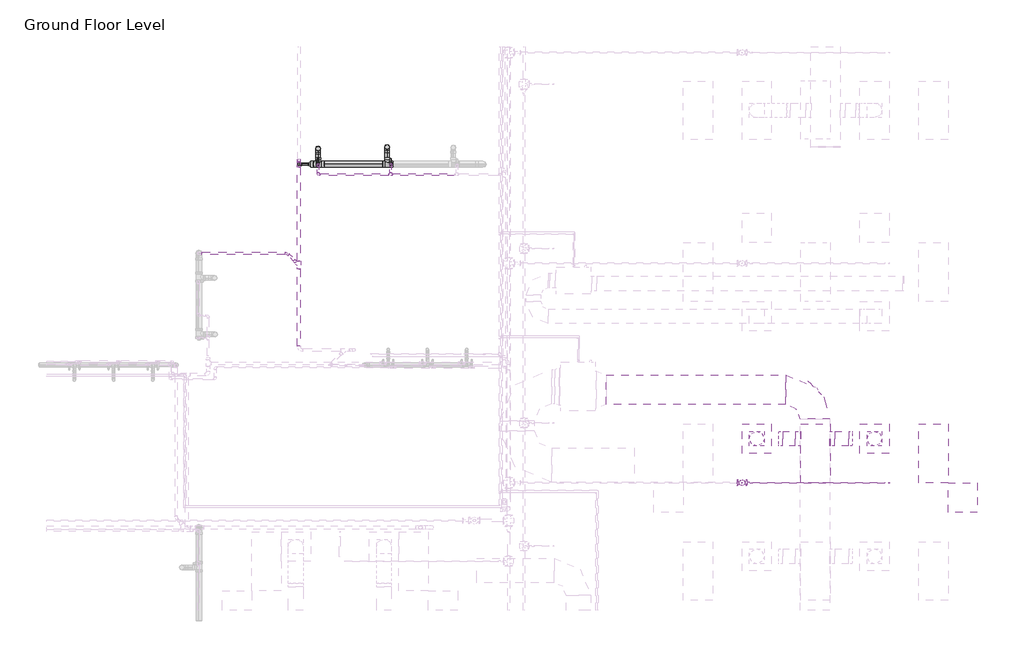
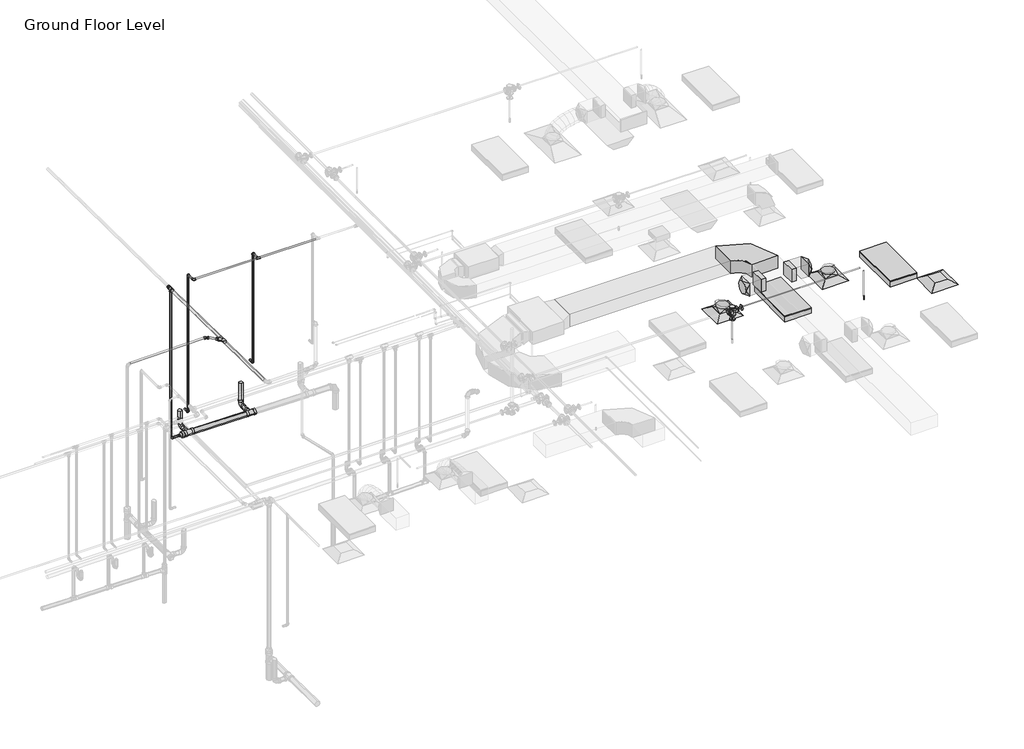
# One storey, part 19 of 68: 24 pipe segments, 20 pipe fittings, 7 duct fittings, 5 duct segments, 3 air terminals, 2 light fixtures, 1 fire suppression terminal.
"""IFC4 building model written with IfcOpenShell, lengths in millimetres."""

from ifc_helpers import new_model, si_unit, point, frame, frame_2d, origin, place, context, project, spatial, polyline, circle_curve, ellipse_curve, trimmed, segment, composite_curve, outline, extrude, transform, mapped, element, save
from ifc_brep_helpers import plane_surface, cylinder_surface, advanced_brep
from components import m_return_diffuser_600_x_600_face_300_x_300_connection_ff221211, m_rectangular_elbow_radius_1_w_c6ed0251, m_rectangular_takeoff_standard_cb0ccb98, m_rectangular_takeoff_standard_2be5eba1, m_rectangular_to_round_transition_angle_45_degree_641efff0, m_sprinkler_dry_pendent_hosted_15_mm_dry_pendent_9bda8e11, m_troffer_light_parabolic_rectangular1_0600x1200mm_4_lamp_86473d4a, m_bend_pvc_sch_40_dwv_standard_a4b99d37, m_bend_pvc_sch_40_dwv_standard_877aed9a, m_bend_pvc_sch_40_dwv_standard_980e5ff7, m_reducer_flanged_cs_class_150_standard_ccf252ad, m_reducer_pvc_sch_40_dwv_standard_19331f3d, m_reducer_pvc_sch_40_dwv_standard_230e9924, m_reducer_pvc_sch_40_dwv_standard_312d928c, m_tee_pvc_sch_40_standard_151c2b90, m_tee_reducing_sanitary_pvc_sch_40_dwv_standard_b49161a9, m_tee_reducing_sanitary_pvc_sch_40_dwv_standard_ca98856a, m_tee_round_base_flanged_cs_class_150_standard_7e5987a1, standard_517a5a8d, standard_72b35c3b, standard_c393d86d

model = new_model("IFC4")

# Units and contexts
model_context = context("Model", 3, world=origin())
ifc_project = project(units=[si_unit("LENGTHUNIT", "METRE", prefix="MILLI")], contexts=[model_context])

# Site, building, storey
site = spatial("IfcSite", under=ifc_project)
building = spatial("IfcBuilding", under=site)
storey = spatial("IfcBuildingStorey", under=building, Name="Ground Floor Level", Elevation=900.0)

# Air terminals
placement = place(None, origin())
m_return_diffuser_600_x_600_face_300_x_300_connection_shape = m_return_diffuser_600_x_600_face_300_x_300_connection_ff221211(model_context)
element("IfcAirTerminal", 1, ObjectType="M_Return Diffuser : 600 x 600 Face 300 x 300 Connection", at=placement, inside=storey, context=model_context, shape_type="MappedRepresentation", body=[
    mapped(m_return_diffuser_600_x_600_face_300_x_300_connection_shape, transform((14943.0482736, -35564.7846466, 3650.0), x_axis=(1.0, 0.0, 0.0), y_axis=(0.0, 1.0, 0.0), z_axis=(0.0, 0.0, 1.0))),
])
element("IfcAirTerminal", 2, ObjectType="M_Supply Diffuser : 600 x 600 Face 300 x 300 Connection", at=placement, inside=storey, context=model_context, shape_type="MappedRepresentation", body=[
    mapped(m_return_diffuser_600_x_600_face_300_x_300_connection_shape, transform((10742.7672395, -34364.7846466, 3650.0), x_axis=(1.0, 0.0, 0.0), y_axis=(0.0, 1.0, 0.0), z_axis=(0.0, 0.0, 1.0))),
])
element("IfcAirTerminal", 3, ObjectType="M_Supply Diffuser : 600 x 600 Face 300 x 300 Connection", at=placement, inside=storey, context=model_context, shape_type="MappedRepresentation", body=[
    mapped(m_return_diffuser_600_x_600_face_300_x_300_connection_shape, transform((13142.7672395, -34364.7846466, 3650.0), x_axis=(1.0, 0.0, 0.0), y_axis=(0.0, 1.0, 0.0), z_axis=(0.0, 0.0, 1.0))),
])

# Duct fittings
m_rectangular_elbow_radius_1_w_shape = m_rectangular_elbow_radius_1_w_c6ed0251(model_context)
element("IfcDuctFitting", 4, ObjectType="M_Rectangular Elbow - Radius : 1 W", at=placement, inside=storey, context=model_context, shape_type="MappedRepresentation", body=[
    mapped(m_rectangular_elbow_radius_1_w_shape, transform((11933.8644074, -33364.7726336, 4099.9875), x_axis=(0.0, 1.0, 0.0), y_axis=(-0.9999999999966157, 0.0, 2.601673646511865e-06), z_axis=(2.601673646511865e-06, 0.0, 0.9999999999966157))),
])
m_rectangular_takeoff_standard_shape = m_rectangular_takeoff_standard_cb0ccb98(model_context)
element("IfcDuctFitting", 5, ObjectType="M_Rectangular Takeoff : Standard", at=placement, inside=storey, context=model_context, shape_type="MappedRepresentation", body=[
    mapped(m_rectangular_takeoff_standard_shape, transform((12233.8644074, -34364.7846466, 4099.9875), x_axis=(1.0, 0.0, 0.0), y_axis=(0.0, -1.0, 0.0), z_axis=(0.0, 0.0, -1.0))),
])
m_rectangular_takeoff_standard_2_shape = m_rectangular_takeoff_standard_2be5eba1(model_context)
element("IfcDuctFitting", 6, ObjectType="M_Rectangular Takeoff : Standard", at=placement, inside=storey, context=model_context, shape_type="MappedRepresentation", body=[
    mapped(m_rectangular_takeoff_standard_2_shape, transform((11633.8644074, -34364.7846466, 4099.9875), x_axis=(-1.0, 0.0, 0.0), y_axis=(0.0, 1.0, 0.0), z_axis=(0.0, 0.0, -1.0))),
])
m_rectangular_to_round_transition_angle_45_degree_shape = m_rectangular_to_round_transition_angle_45_degree_641efff0(model_context)
element("IfcDuctFitting", 7, ObjectType="M_Rectangular to Round Transition - Angle : 45 Degree", at=placement, inside=storey, context=model_context, shape_type="MappedRepresentation", body=[
    mapped(m_rectangular_to_round_transition_angle_45_degree_shape, transform((10742.7672395, -34364.7846466, 3751.6), x_axis=(0.0, 0.0, 1.0), y_axis=(-1.0, 0.0, 0.0), z_axis=(0.0, -1.0, 0.0))),
])
element("IfcDuctFitting", 8, ObjectType="M_Rectangular to Round Transition - Angle : 45 Degree", at=placement, inside=storey, context=model_context, shape_type="MappedRepresentation", body=[
    mapped(m_rectangular_to_round_transition_angle_45_degree_shape, transform((11270.1156708, -34364.7846466, 4099.9875), x_axis=(-1.0, 0.0, 0.0), y_axis=(0.0, -1.0, 0.0), z_axis=(0.0, 0.0, 1.0))),
])
element("IfcDuctFitting", 9, ObjectType="M_Rectangular to Round Transition - Angle : 45 Degree", at=placement, inside=storey, context=model_context, shape_type="MappedRepresentation", body=[
    mapped(m_rectangular_to_round_transition_angle_45_degree_shape, transform((13142.7672395, -34364.7846466, 3751.6), x_axis=(0.0, 0.0, 1.0), y_axis=(-1.0, 0.0, 0.0), z_axis=(0.0, -1.0, 0.0))),
])
element("IfcDuctFitting", 10, ObjectType="M_Rectangular to Round Transition - Angle : 45 Degree", at=placement, inside=storey, context=model_context, shape_type="MappedRepresentation", body=[
    mapped(m_rectangular_to_round_transition_angle_45_degree_shape, transform((12615.4188082, -34364.7846466, 4099.9875), x_axis=(1.0, 0.0, 0.0), y_axis=(0.0, 1.0, 0.0), z_axis=(0.0, 0.0, 1.0))),
])

# Duct segments
element("IfcDuctSegment", 11, ObjectType="Flex - Round", at=placement, inside=storey, context=model_context, shape_type="AdvancedBrep", body=[
    advanced_brep(
    [(10892.7672395, -34364.7846466, 3826.6), (10742.7672395, -34514.7846466, 3826.6), (10592.7672395, -34364.7846466, 3826.6), (10742.7672395, -34214.7846466, 3826.6), (10892.7672395, -34364.7846466, 3829.8098344), (10742.7672395, -34214.7846466, 3864.5152119), (10592.7672395, -34364.7846466, 3899.2205895), (10742.7672395, -34514.7846466, 3864.5152119)],
    [
        (0, 1, circle_curve(frame((10742.7672395, -34364.7846466, 3826.6), z_axis=(0.0, 0.0, -1.0), x_axis=(1.0, 0.0, 0.0)), 150.0)),
        (1, 2, circle_curve(frame((10742.7672395, -34364.7846466, 3826.6), z_axis=(0.0, 0.0, -1.0), x_axis=(1.0, 0.0, 0.0)), 150.0)),
        (2, 3, circle_curve(frame((10742.7672395, -34364.7846466, 3826.6), z_axis=(0.0, 0.0, -1.0), x_axis=(1.0, 0.0, 0.0)), 150.0)),
        (3, 0, circle_curve(frame((10742.7672395, -34364.7846466, 3826.6), z_axis=(0.0, 0.0, -1.0), x_axis=(1.0, 0.0, 0.0)), 150.0)),
        (4, 5, ellipse_curve(frame((10742.7672395, -34364.7846466, 3864.5152119), z_axis=(0.22541442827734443, 0.0, 0.9742629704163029), x_axis=(0.9742629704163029, 0.0, -0.22541442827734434)), 153.9625384, 150.0)),
        (5, 6, ellipse_curve(frame((10742.7672395, -34364.7846466, 3864.5152119), z_axis=(0.22541442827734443, 0.0, 0.9742629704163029), x_axis=(0.9742629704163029, 0.0, -0.22541442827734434)), 153.9625384, 150.0)),
        (6, 7, ellipse_curve(frame((10742.7672395, -34364.7846466, 3864.5152119), z_axis=(0.22541442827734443, 0.0, 0.9742629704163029), x_axis=(0.9742629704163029, 0.0, -0.22541442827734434)), 153.9625384, 150.0)),
        (7, 4, ellipse_curve(frame((10742.7672395, -34364.7846466, 3864.5152119), z_axis=(0.22541442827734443, 0.0, 0.9742629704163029), x_axis=(0.9742629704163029, 0.0, -0.22541442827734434)), 153.9625384, 150.0)),
        (0, 4),
        (7, 1),
        (6, 2),
        (5, 3),
    ],
    [
        plane_surface(frame((10742.7672395, -34514.7846466, 3826.6), z_axis=(0.0, 0.0, -1.0), x_axis=(1.0, 0.0, 0.0))),
        plane_surface(frame((10742.7672395, -34514.7846466, 3864.5152119), z_axis=(0.22541442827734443, 0.0, 0.9742629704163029), x_axis=(0.9742629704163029, 0.0, -0.22541442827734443))),
        cylinder_surface(frame((10742.7672395, -34364.7846466, 3826.6), z_axis=(0.0, 0.0, -1.0), x_axis=(1.0, 0.0, 0.0)), 150.0),
    ],
    [
        (0, [[1, 2, 3, 4]]),
        (1, [[5, 6, 7, 8]]),
        (2, [[-1, 9, -8, 10]]),
        (2, [[-2, -10, -7, 11]]),
        (2, [[-3, -11, -6, 12]]),
        (2, [[-4, -12, -5, -9]]),
    ],
),
])
element("IfcDuctSegment", 12, ObjectType="Flex - Round", at=placement, inside=storey, context=model_context, shape_type="AdvancedBrep", body=[
    advanced_brep(
    [(13292.7672395, -34364.7846466, 3826.6), (13142.7672395, -34514.7846466, 3826.6), (12992.7672395, -34364.7846466, 3826.6), (13142.7672395, -34214.7846466, 3826.6), (13292.7672395, -34364.7846466, 3899.2205895), (13142.7672395, -34214.7846466, 3864.5152119), (12992.7672395, -34364.7846466, 3829.8098344), (13142.7672395, -34514.7846466, 3864.5152119)],
    [
        (0, 1, circle_curve(frame((13142.7672395, -34364.7846466, 3826.6), z_axis=(0.0, 0.0, -1.0), x_axis=(1.0, 0.0, 0.0)), 150.0)),
        (1, 2, circle_curve(frame((13142.7672395, -34364.7846466, 3826.6), z_axis=(0.0, 0.0, -1.0), x_axis=(1.0, 0.0, 0.0)), 150.0)),
        (2, 3, circle_curve(frame((13142.7672395, -34364.7846466, 3826.6), z_axis=(0.0, 0.0, -1.0), x_axis=(1.0, 0.0, 0.0)), 150.0)),
        (3, 0, circle_curve(frame((13142.7672395, -34364.7846466, 3826.6), z_axis=(0.0, 0.0, -1.0), x_axis=(1.0, 0.0, 0.0)), 150.0)),
        (4, 5, ellipse_curve(frame((13142.7672395, -34364.7846466, 3864.5152119), z_axis=(-0.22541442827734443, 0.0, 0.9742629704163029), x_axis=(-0.9742629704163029, 0.0, -0.22541442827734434)), 153.9625384, 150.0)),
        (5, 6, ellipse_curve(frame((13142.7672395, -34364.7846466, 3864.5152119), z_axis=(-0.22541442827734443, 0.0, 0.9742629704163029), x_axis=(-0.9742629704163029, 0.0, -0.22541442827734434)), 153.9625384, 150.0)),
        (6, 7, ellipse_curve(frame((13142.7672395, -34364.7846466, 3864.5152119), z_axis=(-0.22541442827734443, 0.0, 0.9742629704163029), x_axis=(-0.9742629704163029, 0.0, -0.22541442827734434)), 153.9625384, 150.0)),
        (7, 4, ellipse_curve(frame((13142.7672395, -34364.7846466, 3864.5152119), z_axis=(-0.22541442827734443, 0.0, 0.9742629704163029), x_axis=(-0.9742629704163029, 0.0, -0.22541442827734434)), 153.9625384, 150.0)),
        (0, 4),
        (7, 1),
        (6, 2),
        (5, 3),
    ],
    [
        plane_surface(frame((13142.7672395, -34514.7846466, 3826.6), z_axis=(0.0, 0.0, -1.0), x_axis=(1.0, 0.0, 0.0))),
        plane_surface(frame((13142.7672395, -34214.7846466, 3864.5152119), z_axis=(-0.22541442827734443, 0.0, 0.9742629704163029), x_axis=(-0.9742629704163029, 0.0, -0.22541442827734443))),
        cylinder_surface(frame((13142.7672395, -34364.7846466, 3826.6), z_axis=(0.0, 0.0, -1.0), x_axis=(1.0, 0.0, 0.0)), 150.0),
    ],
    [
        (0, [[1, 2, 3, 4]]),
        (1, [[5, 6, 7, 8]]),
        (2, [[-1, 9, -8, 10]]),
        (2, [[-2, -10, -7, 11]]),
        (2, [[-3, -11, -6, 12]]),
        (2, [[-4, -12, -5, -9]]),
    ],
),
])
element("IfcDuctSegment", 13, ObjectType="Radius Elbows / Taps", at=placement, inside=storey, context=model_context, shape_type="SweptSolid", body=[
    extrude(outline(polyline([(0.0, -600.0), (0.0, 0.0), (3664.5995898, 0.0), (3664.5995898, -600.0), (0.0, -600.0)])), frame((7669.2643699, -33064.7726336, 3950.0), z_axis=(2.9850453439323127e-06, 0.0, 0.9999999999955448), x_axis=(0.9999999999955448, 0.0, -2.9850453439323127e-06)), (0.0, 0.0, 1.0), 300.0),
])
element("IfcDuctSegment", 14, ObjectType="Radius Elbows / Taps", at=placement, inside=storey, context=model_context, shape_type="SweptSolid", body=[
    extrude(outline(polyline([(11532.2644074, -34214.7846466), (11532.2644074, -34514.7846466), (11270.1156708, -34514.7846466), (11270.1156708, -34214.7846466), (11532.2644074, -34214.7846466)])), frame((0.0, 0.0, 3949.9875), z_axis=(0.0, 0.0, 1.0), x_axis=(1.0, 0.0, 0.0)), (0.0, 0.0, 1.0), 300.0),
])
element("IfcDuctSegment", 15, ObjectType="Radius Elbows / Taps", at=placement, inside=storey, context=model_context, shape_type="SweptSolid", body=[
    extrude(outline(polyline([(12335.4644074, -34514.7846466), (12335.4644074, -34214.7846466), (12615.4188082, -34214.7846466), (12615.4188082, -34514.7846466), (12335.4644074, -34514.7846466)])), frame((0.0, 0.0, 3949.9875), z_axis=(0.0, 0.0, 1.0), x_axis=(1.0, 0.0, 0.0)), (0.0, 0.0, 1.0), 300.0),
])

# Fire suppression terminal
m_sprinkler_dry_pendent_hosted_15_mm_dry_pendent_shape = m_sprinkler_dry_pendent_hosted_15_mm_dry_pendent_9bda8e11(model_context)
element("IfcFireSuppressionTerminal", 16, ObjectType="M_Sprinkler - Dry - Pendent - Hosted : 15 mm Dry Pendent", at=placement, inside=storey, context=model_context, shape_type="MappedRepresentation", body=[
    mapped(m_sprinkler_dry_pendent_hosted_15_mm_dry_pendent_shape, transform((13443.0482736, -35264.7846466, 3650.0), x_axis=(1.0, 0.0, 0.0), y_axis=(0.0, -1.0, 0.0), z_axis=(0.0, 0.0, -1.0))),
])

# Light fixtures
m_troffer_light_parabolic_rectangular1_0600x1200mm_4_lamp_shape = m_troffer_light_parabolic_rectangular1_0600x1200mm_4_lamp_86473d4a(model_context)
element("IfcLightFixture", 17, ObjectType="M_Troffer Light - Parabolic Rectangular1 : 0600x1200mm(4 Lamp) - 277V 2", at=placement, inside=storey, context=model_context, shape_type="MappedRepresentation", body=[
    mapped(m_troffer_light_parabolic_rectangular1_0600x1200mm_4_lamp_shape, transform((14283.5823415, -34646.0811451, 3650.0), x_axis=(0.0, 1.0, 0.0), y_axis=(-1.0, 0.0, 0.0), z_axis=(0.0, 0.0, 1.0))),
])
element("IfcLightFixture", 18, ObjectType="M_Troffer Light - Parabolic Rectangular1 : 0600x1200mm(4 Lamp) - 277V 2", at=placement, inside=storey, context=model_context, shape_type="MappedRepresentation", body=[
    mapped(m_troffer_light_parabolic_rectangular1_0600x1200mm_4_lamp_shape, transform((11883.5823415, -34646.0811451, 3650.0), x_axis=(0.0, 1.0, 0.0), y_axis=(-1.0, 0.0, 0.0), z_axis=(0.0, 0.0, 1.0))),
])

# Pipe fittings
m_bend_pvc_sch_40_dwv_standard_shape = m_bend_pvc_sch_40_dwv_standard_a4b99d37(model_context)
element("IfcPipeFitting", 19, ObjectType="M_Bend - PVC - Sch 40 - DWV : Standard", at=placement, inside=storey, context=model_context, shape_type="MappedRepresentation", body=[
    mapped(m_bend_pvc_sch_40_dwv_standard_shape, transform((3203.6056556, -28411.2419494, 467.9903626), x_axis=(0.0, 0.0, -1.0), y_axis=(0.0, -1.0, 0.0), z_axis=(-1.0, 0.0, 0.0))),
])
element("IfcPipeFitting", 20, ObjectType="M_Bend - PVC - Sch 40 - DWV : Standard", at=placement, inside=storey, context=model_context, shape_type="MappedRepresentation", body=[
    mapped(m_bend_pvc_sch_40_dwv_standard_shape, transform((1796.7972875, -28443.3871738, 482.0584463), x_axis=(0.0, 0.0, -1.0), y_axis=(0.0, -1.0, 0.0), z_axis=(-1.0, 0.0, 0.0))),
])
m_bend_pvc_sch_40_dwv_standard_2_shape = m_bend_pvc_sch_40_dwv_standard_877aed9a(model_context)
element("IfcPipeFitting", 21, ObjectType="M_Bend - PVC - Sch 40 - DWV : Standard", at=placement, inside=storey, context=model_context, shape_type="MappedRepresentation", body=[
    mapped(m_bend_pvc_sch_40_dwv_standard_2_shape, transform((1404.8669708, -28761.5689421, 485.9777495), x_axis=(-0.9999500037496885, 0.0, 0.009999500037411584), y_axis=(0.009999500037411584, 0.0, 0.9999500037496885), z_axis=(0.0, 1.0, 0.0))),
])
m_bend_pvc_sch_40_dwv_standard_3_shape = m_bend_pvc_sch_40_dwv_standard_980e5ff7(model_context)
element("IfcPipeFitting", 22, ObjectType="M_Bend - PVC - Sch 40 - DWV : Standard", at=placement, inside=storey, context=model_context, shape_type="MappedRepresentation", body=[
    mapped(m_bend_pvc_sch_40_dwv_standard_3_shape, transform((1167.6346326, -30581.7541446, 4102.0377498), x_axis=(-0.7070204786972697, 0.7069851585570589, -0.017147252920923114), y_axis=(-0.7071225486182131, -0.7070845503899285, 0.0030232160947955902), z_axis=(-0.009987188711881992, 0.014262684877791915, 0.9998484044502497))),
])
m_reducer_flanged_cs_class_150_standard_shape = m_reducer_flanged_cs_class_150_standard_ccf252ad(model_context)
element("IfcPipeFitting", 23, ObjectType="M_Reducer - Flanged - CS - Class 150 : Standard", at=placement, inside=storey, context=model_context, shape_type="MappedRepresentation", body=[
    mapped(m_reducer_flanged_cs_class_150_standard_shape, transform((10543.7568674, -35264.7846466, 4347.5), x_axis=(1.0, 0.0, 0.0), y_axis=(0.0, 0.0, 1.0), z_axis=(0.0, -1.0, 0.0))),
])
element("IfcPipeFitting", 24, ObjectType="M_Reducer - Flanged - CS - Class 150 : Standard", at=placement, inside=storey, context=model_context, shape_type="MappedRepresentation", body=[
    mapped(m_reducer_flanged_cs_class_150_standard_shape, transform((10443.0482736, -35264.7846466, 4246.7914063), x_axis=(0.0, 0.0, -1.0), y_axis=(-1.0, 0.0, 0.0), z_axis=(0.0, 1.0, 0.0))),
])
m_reducer_pvc_sch_40_dwv_standard_shape = m_reducer_pvc_sch_40_dwv_standard_19331f3d(model_context)
element("IfcPipeFitting", 25, ObjectType="M_Reducer - PVC - Sch 40 - DWV : Standard", at=placement, inside=storey, context=model_context, shape_type="MappedRepresentation", body=[
    mapped(m_reducer_pvc_sch_40_dwv_standard_shape, transform((1692.863236, -28761.5689421, 483.0977868), x_axis=(-0.9999500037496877, 0.0, 0.00999950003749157), y_axis=(0.0, -1.0000000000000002, 0.0), z_axis=(0.00999950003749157, 0.0, 0.9999500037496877))),
])
m_reducer_pvc_sch_40_dwv_standard_2_shape = m_reducer_pvc_sch_40_dwv_standard_230e9924(model_context)
element("IfcPipeFitting", 26, ObjectType="M_Reducer - PVC - Sch 40 - DWV : Standard", at=placement, inside=storey, context=model_context, shape_type="MappedRepresentation", body=[
    mapped(m_reducer_pvc_sch_40_dwv_standard_2_shape, transform((1404.8829692, -28664.0719039, 4086.0016836), x_axis=(0.0, -0.9999500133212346, 0.00999854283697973), y_axis=(1.0, 0.0, 0.0), z_axis=(0.0, 0.00999854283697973, 0.9999500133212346))),
])
m_reducer_pvc_sch_40_dwv_standard_3_shape = m_reducer_pvc_sch_40_dwv_standard_312d928c(model_context)
element("IfcPipeFitting", 27, ObjectType="M_Reducer - PVC - Sch 40 - DWV : Standard", at=placement, inside=storey, context=model_context, shape_type="MappedRepresentation", body=[
    mapped(m_reducer_pvc_sch_40_dwv_standard_3_shape, transform((1345.2677086, -30759.3781518, 4106.4029379), x_axis=(-0.7070174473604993, 0.7069881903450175, -0.017147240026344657), y_axis=(-0.7070524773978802, -0.7071546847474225, -0.003007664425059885), z_axis=(-0.014252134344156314, 0.009997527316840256, 0.9998484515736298))),
])
m_tee_pvc_sch_40_standard_shape = m_tee_pvc_sch_40_standard_151c2b90(model_context)
element("IfcPipeFitting", 28, ObjectType="M_Tee - PVC - Sch 40 : Standard", at=placement, inside=storey, context=model_context, shape_type="MappedRepresentation", body=[
    mapped(m_tee_pvc_sch_40_standard_shape, transform((1404.8829692, -30818.9909454, 4107.8487823), x_axis=(0.0, -0.9999500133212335, 0.009998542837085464), y_axis=(0.9998984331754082, 0.0001425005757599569, 0.014251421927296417), z_axis=(-0.014252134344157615, 0.009997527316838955, 0.9998484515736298))),
])
m_tee_reducing_sanitary_pvc_sch_40_dwv_standard_shape = m_tee_reducing_sanitary_pvc_sch_40_dwv_standard_b49161a9(model_context)
element("IfcPipeFitting", 29, ObjectType="M_Tee Reducing Sanitary - PVC - Sch 40 - DWV : Standard", at=placement, inside=storey, context=model_context, shape_type="MappedRepresentation", body=[
    mapped(m_tee_reducing_sanitary_pvc_sch_40_dwv_standard_shape, transform((3203.6056556, -28761.5689421, 467.9903626), x_axis=(-0.9999500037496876, 0.0, 0.00999950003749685), y_axis=(0.0, -1.0, 0.0), z_axis=(0.00999950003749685, 0.0, 0.9999500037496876))),
])
element("IfcPipeFitting", 30, ObjectType="M_Tee Reducing Sanitary - PVC - Sch 40 - DWV : Standard", at=placement, inside=storey, context=model_context, shape_type="MappedRepresentation", body=[
    mapped(m_tee_reducing_sanitary_pvc_sch_40_dwv_standard_shape, transform((1796.7972875, -28761.5689421, 482.0584463), x_axis=(-0.9999500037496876, 0.0, 0.009999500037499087), y_axis=(0.0, -1.0000000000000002, 0.0), z_axis=(0.009999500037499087, 0.0, 0.9999500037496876))),
])
m_tee_reducing_sanitary_pvc_sch_40_dwv_standard_2_shape = m_tee_reducing_sanitary_pvc_sch_40_dwv_standard_ca98856a(model_context)
element("IfcPipeFitting", 31, ObjectType="M_Tee Reducing Sanitary - PVC - Sch 40 - DWV : Standard", at=placement, inside=storey, context=model_context, shape_type="MappedRepresentation", body=[
    mapped(m_tee_reducing_sanitary_pvc_sch_40_dwv_standard_2_shape, transform((1404.8829692, -28761.5849374, 4087.2766918), x_axis=(0.0, 0.9999500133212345, -0.009998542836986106), y_axis=(0.0, 0.009998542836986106, 0.9999500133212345), z_axis=(1.0, 0.0, 0.0))),
])
m_tee_round_base_flanged_cs_class_150_standard_shape = m_tee_round_base_flanged_cs_class_150_standard_7e5987a1(model_context)
element("IfcPipeFitting", 32, ObjectType="M_Tee Round Base - Flanged - CS - Class 150 : Standard", at=placement, inside=storey, context=model_context, shape_type="MappedRepresentation", body=[
    mapped(m_tee_round_base_flanged_cs_class_150_standard_shape, transform((10443.0482736, -35264.7846466, 4347.5), x_axis=(1.0, 0.0, 0.0), y_axis=(0.0, 0.0, 1.0), z_axis=(0.0, -1.0, 0.0))),
])
standard_shape = standard_517a5a8d(model_context)
element("IfcPipeFitting", 33, ObjectType="M_Elbow - CPVC - Sch 40 : Standard", at=placement, inside=storey, context=model_context, shape_type="MappedRepresentation", body=[
    mapped(standard_shape, transform((3277.0059257, -28764.7846466, 1655.0), x_axis=(0.0, -1.0, 0.0), y_axis=(0.0, 0.0, 1.0), z_axis=(-1.0, 0.0, 0.0))),
])
element("IfcPipeFitting", 34, ObjectType="M_Elbow - CPVC - Sch 40 : Standard", at=placement, inside=storey, context=model_context, shape_type="MappedRepresentation", body=[
    mapped(standard_shape, transform((3277.0059257, -28764.7846466, 4300.0), x_axis=(0.0, 0.0, 1.0), y_axis=(0.0, -1.0, 0.0), z_axis=(1.0, 0.0, 0.0))),
])
element("IfcPipeFitting", 35, ObjectType="M_Elbow - CPVC - Sch 40 : Standard", at=placement, inside=storey, context=model_context, shape_type="MappedRepresentation", body=[
    mapped(standard_shape, transform((1796.7587914, -28974.7846466, 4300.0), x_axis=(0.0, -1.0, 0.0), y_axis=(1.0, 0.0, 0.0), z_axis=(0.0, 0.0, 1.0))),
])
element("IfcPipeFitting", 36, ObjectType="M_Elbow - CPVC - Sch 40 : Standard", at=placement, inside=storey, context=model_context, shape_type="MappedRepresentation", body=[
    mapped(standard_shape, transform((1796.7587914, -28769.5558494, 4300.0), x_axis=(0.0, 0.0, 1.0), y_axis=(0.0, -1.0, 0.0), z_axis=(1.0, 0.0, 0.0))),
])
standard_2_shape = standard_72b35c3b(model_context)
element("IfcPipeFitting", 37, ObjectType="M_Tee - CPVC - Sch 40 : Standard", at=placement, inside=storey, context=model_context, shape_type="MappedRepresentation", body=[
    mapped(standard_2_shape, transform((3277.0059257, -28974.7846466, 4300.0), x_axis=(1.0, 0.0, 0.0), y_axis=(0.0, -1.0, 0.0), z_axis=(0.0, 0.0, -1.0))),
])
standard_3_shape = standard_c393d86d(model_context)
element("IfcPipeFitting", 38, ObjectType="M_Elbow - CPVC - Sch 40 : Standard", at=placement, inside=storey, context=model_context, shape_type="MappedRepresentation", body=[
    mapped(standard_3_shape, transform((1796.7587914, -28769.5558494, 983.5), x_axis=(0.0, -0.9999999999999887, 1.506625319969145e-07), y_axis=(0.0, 1.506625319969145e-07, 0.9999999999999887), z_axis=(-1.0, 0.0, 0.0))),
])

# Pipe segments
element("IfcPipeSegment", 39, ObjectType="CPVC", at=placement, inside=storey, context=model_context, shape_type="SweptSolid", body=[
    extrude(outline(composite_curve([segment(trimmed(circle_curve(frame_2d((-28974.7846466, 4300.0)), 16.7005), [point((-28958.0841466, 4300.0))], [point((-28974.7846466, 4283.2995))], False, "CARTESIAN"), True, "CONTINUOUS"), segment(trimmed(circle_curve(frame_2d((-28974.7846466, 4300.0)), 16.7005), [point((-28974.7846466, 4283.2995))], [point((-28991.4851466, 4300.0))], False, "CARTESIAN"), True, "CONTINUOUS"), segment(trimmed(circle_curve(frame_2d((-28974.7846466, 4300.0)), 16.7005), [point((-28991.4851466, 4300.0))], [point((-28974.7846466, 4316.7005))], False, "CARTESIAN"), True, "CONTINUOUS"), segment(trimmed(circle_curve(frame_2d((-28974.7846466, 4300.0)), 16.7005), [point((-28974.7846466, 4316.7005))], [point((-28958.0841466, 4300.0))], False, "CARTESIAN"), True, "CONTINUOUS")], self_intersect=False)), frame((1840.0213414, 0.0, 0.0), z_axis=(1.0, 0.0, 0.0), x_axis=(0.0, 1.0, 0.0)), (0.0, 0.0, 1.0), 1397.2843843),
])
element("IfcPipeSegment", 40, ObjectType="CPVC", at=placement, inside=storey, context=model_context, shape_type="SweptSolid", body=[
    extrude(outline(composite_curve([segment(trimmed(circle_curve(frame_2d((1655.0, 3277.0059257)), 16.7005), [point((1655.0, 3260.3054257))], [point((1638.2995, 3277.0059257))], False, "CARTESIAN"), True, "CONTINUOUS"), segment(trimmed(circle_curve(frame_2d((1655.0, 3277.0059257)), 16.7005), [point((1638.2995, 3277.0059257))], [point((1655.0, 3293.7064257))], False, "CARTESIAN"), True, "CONTINUOUS"), segment(trimmed(circle_curve(frame_2d((1655.0, 3277.0059257)), 16.7005), [point((1655.0, 3293.7064257))], [point((1671.7005, 3277.0059257))], False, "CARTESIAN"), True, "CONTINUOUS"), segment(trimmed(circle_curve(frame_2d((1655.0, 3277.0059257)), 16.7005), [point((1671.7005, 3277.0059257))], [point((1655.0, 3260.3054257))], False, "CARTESIAN"), True, "CONTINUOUS")], self_intersect=False)), frame((0.0, -28721.5220966, 0.0), z_axis=(0.0, 1.0, 0.0), x_axis=(0.0, 0.0, 1.0)), (0.0, 0.0, 1.0), 76.73745),
])
element("IfcPipeSegment", 41, ObjectType="CPVC", at=placement, inside=storey, context=model_context, shape_type="SweptSolid", body=[
    extrude(outline(composite_curve([segment(trimmed(circle_curve(frame_2d((4300.0, 3277.0059257)), 16.7005), [point((4300.0, 3293.7064257))], [point((4316.7005, 3277.0059257))], False, "CARTESIAN"), True, "CONTINUOUS"), segment(trimmed(circle_curve(frame_2d((4300.0, 3277.0059257)), 16.7005), [point((4316.7005, 3277.0059257))], [point((4300.0, 3260.3054257))], False, "CARTESIAN"), True, "CONTINUOUS"), segment(trimmed(circle_curve(frame_2d((4300.0, 3277.0059257)), 16.7005), [point((4300.0, 3260.3054257))], [point((4283.2995, 3277.0059257))], False, "CARTESIAN"), True, "CONTINUOUS"), segment(trimmed(circle_curve(frame_2d((4300.0, 3277.0059257)), 16.7005), [point((4283.2995, 3277.0059257))], [point((4300.0, 3293.7064257))], False, "CARTESIAN"), True, "CONTINUOUS")], self_intersect=False)), frame((0.0, -28935.0844466, 0.0), z_axis=(0.0, 1.0, 0.0), x_axis=(0.0, 0.0, 1.0)), (0.0, 0.0, 1.0), 127.03725),
])
element("IfcPipeSegment", 42, ObjectType="CPVC", at=placement, inside=storey, context=model_context, shape_type="SweptSolid", body=[
    extrude(outline(composite_curve([segment(trimmed(circle_curve(frame_2d((3277.0059257, -28764.7846466)), 16.7005), [point((3260.3054257, -28764.7846466))], [point((3277.0059257, -28748.0841466))], False, "CARTESIAN"), True, "CONTINUOUS"), segment(trimmed(circle_curve(frame_2d((3277.0059257, -28764.7846466)), 16.7005), [point((3277.0059257, -28748.0841466))], [point((3293.7064257, -28764.7846466))], False, "CARTESIAN"), True, "CONTINUOUS"), segment(trimmed(circle_curve(frame_2d((3277.0059257, -28764.7846466)), 16.7005), [point((3293.7064257, -28764.7846466))], [point((3277.0059257, -28781.4851466))], False, "CARTESIAN"), True, "CONTINUOUS"), segment(trimmed(circle_curve(frame_2d((3277.0059257, -28764.7846466)), 16.7005), [point((3277.0059257, -28781.4851466))], [point((3260.3054257, -28764.7846466))], False, "CARTESIAN"), True, "CONTINUOUS")], self_intersect=False)), frame((0.0, 0.0, 1698.26255), z_axis=(0.0, 0.0, 1.0), x_axis=(1.0, 0.0, 0.0)), (0.0, 0.0, 1.0), 2558.4749),
])
element("IfcPipeSegment", 43, ObjectType="CPVC", at=placement, inside=storey, context=model_context, shape_type="SweptSolid", body=[
    extrude(outline(composite_curve([segment(trimmed(circle_curve(frame_2d((-28974.7846466, 4300.0)), 16.7005), [point((-28958.0841466, 4300.0))], [point((-28974.7846466, 4283.2995))], False, "CARTESIAN"), True, "CONTINUOUS"), segment(trimmed(circle_curve(frame_2d((-28974.7846466, 4300.0)), 16.7005), [point((-28974.7846466, 4283.2995))], [point((-28991.4851466, 4300.0))], False, "CARTESIAN"), True, "CONTINUOUS"), segment(trimmed(circle_curve(frame_2d((-28974.7846466, 4300.0)), 16.7005), [point((-28991.4851466, 4300.0))], [point((-28974.7846466, 4316.7005))], False, "CARTESIAN"), True, "CONTINUOUS"), segment(trimmed(circle_curve(frame_2d((-28974.7846466, 4300.0)), 16.7005), [point((-28974.7846466, 4316.7005))], [point((-28958.0841466, 4300.0))], False, "CARTESIAN"), True, "CONTINUOUS")], self_intersect=False)), frame((3316.7061257, 0.0, 0.0), z_axis=(1.0, 0.0, 0.0), x_axis=(0.0, 1.0, 0.0)), (0.0, 0.0, 1.0), 1270.7089625),
])
element("IfcPipeSegment", 44, ObjectType="CPVC", at=placement, inside=storey, context=model_context, shape_type="SweptSolid", body=[
    extrude(outline(composite_curve([segment(trimmed(circle_curve(frame_2d((983.4999789, 1796.7587914)), 16.7005), [point((983.4999789, 1780.0582914))], [point((966.7994789, 1796.7587914))], False, "CARTESIAN"), True, "CONTINUOUS"), segment(trimmed(circle_curve(frame_2d((983.4999789, 1796.7587914)), 16.7005), [point((966.7994789, 1796.7587914))], [point((983.4999789, 1813.4592914))], False, "CARTESIAN"), True, "CONTINUOUS"), segment(trimmed(circle_curve(frame_2d((983.4999789, 1796.7587914)), 16.7005), [point((983.4999789, 1813.4592914))], [point((1000.2004789, 1796.7587914))], False, "CARTESIAN"), True, "CONTINUOUS"), segment(trimmed(circle_curve(frame_2d((983.4999789, 1796.7587914)), 16.7005), [point((1000.2004789, 1796.7587914))], [point((983.4999789, 1780.0582914))], False, "CARTESIAN"), True, "CONTINUOUS")], self_intersect=False)), frame((0.0, -28726.2933025, 0.0), z_axis=(0.0, 1.0, 0.0), x_axis=(0.0, 0.0, 1.0)), (0.0, 0.0, 1.0), 96.7374532),
])
element("IfcPipeSegment", 45, ObjectType="CPVC", at=placement, inside=storey, context=model_context, shape_type="SweptSolid", body=[
    extrude(outline(composite_curve([segment(trimmed(circle_curve(frame_2d((4300.0, 1796.7587914)), 16.7005), [point((4300.0, 1813.4592914))], [point((4316.7005, 1796.7587914))], False, "CARTESIAN"), True, "CONTINUOUS"), segment(trimmed(circle_curve(frame_2d((4300.0, 1796.7587914)), 16.7005), [point((4316.7005, 1796.7587914))], [point((4300.0, 1780.0582914))], False, "CARTESIAN"), True, "CONTINUOUS"), segment(trimmed(circle_curve(frame_2d((4300.0, 1796.7587914)), 16.7005), [point((4300.0, 1780.0582914))], [point((4283.2995, 1796.7587914))], False, "CARTESIAN"), True, "CONTINUOUS"), segment(trimmed(circle_curve(frame_2d((4300.0, 1796.7587914)), 16.7005), [point((4283.2995, 1796.7587914))], [point((4300.0, 1813.4592914))], False, "CARTESIAN"), True, "CONTINUOUS")], self_intersect=False)), frame((0.0, -28931.5220966, 0.0), z_axis=(0.0, 1.0, 0.0), x_axis=(0.0, 0.0, 1.0)), (0.0, 0.0, 1.0), 118.7036973),
])
element("IfcPipeSegment", 46, ObjectType="CPVC", at=placement, inside=storey, context=model_context, shape_type="SweptSolid", body=[
    extrude(outline(composite_curve([segment(trimmed(circle_curve(frame_2d((1796.7587914, -28769.5558494)), 16.7005), [point((1780.0582914, -28769.5558494))], [point((1796.7587914, -28752.8553494))], False, "CARTESIAN"), True, "CONTINUOUS"), segment(trimmed(circle_curve(frame_2d((1796.7587914, -28769.5558494)), 16.7005), [point((1796.7587914, -28752.8553494))], [point((1813.4592914, -28769.5558494))], False, "CARTESIAN"), True, "CONTINUOUS"), segment(trimmed(circle_curve(frame_2d((1796.7587914, -28769.5558494)), 16.7005), [point((1813.4592914, -28769.5558494))], [point((1796.7587914, -28786.2563494))], False, "CARTESIAN"), True, "CONTINUOUS"), segment(trimmed(circle_curve(frame_2d((1796.7587914, -28769.5558494)), 16.7005), [point((1796.7587914, -28786.2563494))], [point((1780.0582914, -28769.5558494))], False, "CARTESIAN"), True, "CONTINUOUS")], self_intersect=False)), frame((0.0, 0.0, 1026.7625468), z_axis=(0.0, 0.0, 1.0), x_axis=(1.0, 0.0, 0.0)), (0.0, 0.0, 1.0), 3229.9749032),
])
element("IfcPipeSegment", 47, ObjectType="PVC - DWV", at=placement, inside=storey, context=model_context, shape_type="SweptSolid", body=[
    extrude(outline(composite_curve([segment(trimmed(circle_curve(frame_2d((0.0, -44.45)), 44.45), [point((-44.45, -44.45))], [point((0.0, 0.0))], False, "CARTESIAN"), True, "CONTINUOUS"), segment(trimmed(circle_curve(frame_2d((0.0, -44.45)), 44.45), [point((0.0, 0.0))], [point((44.45, -44.45))], False, "CARTESIAN"), True, "CONTINUOUS"), segment(trimmed(circle_curve(frame_2d((0.0, -44.45)), 44.45), [point((44.45, -44.45))], [point((0.0, -88.9))], False, "CARTESIAN"), True, "CONTINUOUS"), segment(trimmed(circle_curve(frame_2d((0.0, -44.45)), 44.45), [point((0.0, -88.9))], [point((-44.45, -44.45))], False, "CARTESIAN"), True, "CONTINUOUS")], self_intersect=False)), frame((3203.6056556, -28455.6919494, 583.8905626), z_axis=(-1.1079649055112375e-05, 0.0, 0.9999999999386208), x_axis=(-0.9999999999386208, 0.0, -1.1079649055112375e-05)), (0.0, 0.0, 1.0), 406.1094374),
])
element("IfcPipeSegment", 48, ObjectType="PVC - DWV", at=placement, inside=storey, context=model_context, shape_type="SweptSolid", body=[
    extrude(outline(composite_curve([segment(trimmed(circle_curve(frame_2d((467.9903626, 3203.6056556)), 44.45), [point((467.9903626, 3159.1556556))], [point((423.5403626, 3203.6056556))], False, "CARTESIAN"), True, "CONTINUOUS"), segment(trimmed(circle_curve(frame_2d((467.9903626, 3203.6056556)), 44.45), [point((423.5403626, 3203.6056556))], [point((467.9903626, 3248.0556556))], False, "CARTESIAN"), True, "CONTINUOUS"), segment(trimmed(circle_curve(frame_2d((467.9903626, 3203.6056556)), 44.45), [point((467.9903626, 3248.0556556))], [point((512.4403626, 3203.6056556))], False, "CARTESIAN"), True, "CONTINUOUS"), segment(trimmed(circle_curve(frame_2d((467.9903626, 3203.6056556)), 44.45), [point((512.4403626, 3203.6056556))], [point((467.9903626, 3159.1556556))], False, "CARTESIAN"), True, "CONTINUOUS")], self_intersect=False)), frame((0.0, -28632.9687421, 0.0), z_axis=(0.0, 1.0, 0.0), x_axis=(0.0, 0.0, 1.0)), (0.0, 0.0, 1.0), 105.8265928),
])
element("IfcPipeSegment", 49, ObjectType="PVC - DWV", at=placement, inside=storey, context=model_context, shape_type="SweptSolid", body=[
    extrude(outline(composite_curve([segment(trimmed(circle_curve(frame_2d((0.0, -44.45)), 44.45), [point((-44.45, -44.45))], [point((0.0, 0.0))], False, "CARTESIAN"), True, "CONTINUOUS"), segment(trimmed(circle_curve(frame_2d((0.0, -44.45)), 44.45), [point((0.0, 0.0))], [point((44.45, -44.45))], False, "CARTESIAN"), True, "CONTINUOUS"), segment(trimmed(circle_curve(frame_2d((0.0, -44.45)), 44.45), [point((44.45, -44.45))], [point((0.0, -88.9))], False, "CARTESIAN"), True, "CONTINUOUS"), segment(trimmed(circle_curve(frame_2d((0.0, -44.45)), 44.45), [point((0.0, -88.9))], [point((-44.45, -44.45))], False, "CARTESIAN"), True, "CONTINUOUS")], self_intersect=False)), frame((1796.7972875, -28487.8371738, 597.9586463), z_axis=(-1.9335461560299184e-05, 0.0, 0.99999999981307), x_axis=(-0.99999999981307, 0.0, -1.9335461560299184e-05)), (0.0, 0.0, 1.0), 232.7097303),
])
element("IfcPipeSegment", 50, ObjectType="PVC - DWV", at=placement, inside=storey, context=model_context, shape_type="SweptSolid", body=[
    extrude(outline(composite_curve([segment(trimmed(circle_curve(frame_2d((482.0584463, 1796.7972875)), 44.45), [point((482.0584463, 1752.3472875))], [point((437.6084463, 1796.7972875))], False, "CARTESIAN"), True, "CONTINUOUS"), segment(trimmed(circle_curve(frame_2d((482.0584463, 1796.7972875)), 44.45), [point((437.6084463, 1796.7972875))], [point((482.0584463, 1841.2472875))], False, "CARTESIAN"), True, "CONTINUOUS"), segment(trimmed(circle_curve(frame_2d((482.0584463, 1796.7972875)), 44.45), [point((482.0584463, 1841.2472875))], [point((526.5084463, 1796.7972875))], False, "CARTESIAN"), True, "CONTINUOUS"), segment(trimmed(circle_curve(frame_2d((482.0584463, 1796.7972875)), 44.45), [point((526.5084463, 1796.7972875))], [point((482.0584463, 1752.3472875))], False, "CARTESIAN"), True, "CONTINUOUS")], self_intersect=False)), frame((0.0, -28632.9687421, 0.0), z_axis=(0.0, 1.0, 0.0), x_axis=(0.0, 0.0, 1.0)), (0.0, 0.0, 1.0), 73.6813683),
])
element("IfcPipeSegment", 51, ObjectType="PVC - DWV", at=placement, inside=storey, context=model_context, shape_type="SweptSolid", body=[
    extrude(outline(composite_curve([segment(trimmed(circle_curve(frame_2d((0.0, -57.15)), 57.15), [point((0.0, -114.3))], [point((-57.15, -57.15))], False, "CARTESIAN"), True, "CONTINUOUS"), segment(trimmed(circle_curve(frame_2d((0.0, -57.15)), 57.15), [point((-57.15, -57.15))], [point((0.0, 0.0))], False, "CARTESIAN"), True, "CONTINUOUS"), segment(trimmed(circle_curve(frame_2d((0.0, -57.15)), 57.15), [point((0.0, 0.0))], [point((57.15, -57.15))], False, "CARTESIAN"), True, "CONTINUOUS"), segment(trimmed(circle_curve(frame_2d((0.0, -57.15)), 57.15), [point((57.15, -57.15))], [point((0.0, -114.3))], False, "CARTESIAN"), True, "CONTINUOUS")], self_intersect=False)), frame((3114.7101003, -28704.4189421, 468.8793182), z_axis=(-0.9999500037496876, 0.0, 0.00999950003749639), x_axis=(0.00999950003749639, 0.0, 0.9999500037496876)), (0.0, 0.0, 1.0), 1197.3287067),
])
element("IfcPipeSegment", 52, ObjectType="PVC - DWV", at=placement, inside=storey, context=model_context, shape_type="SweptSolid", body=[
    extrude(outline(composite_curve([segment(trimmed(circle_curve(frame_2d((0.0, 30.1624999)), 30.1625), [point((-30.1625, 30.1624999))], [point((0.0, 60.3249999))], False, "CARTESIAN"), True, "CONTINUOUS"), segment(trimmed(circle_curve(frame_2d((0.0, 30.1624999)), 30.1625), [point((0.0, 60.3249999))], [point((30.1625, 30.1624999))], False, "CARTESIAN"), True, "CONTINUOUS"), segment(trimmed(circle_curve(frame_2d((0.0, 30.1624999)), 30.1625), [point((30.1625, 30.1624999))], [point((0.0, 0.0))], False, "CARTESIAN"), True, "CONTINUOUS"), segment(trimmed(circle_curve(frame_2d((0.0, 30.1624999)), 30.1625), [point((0.0, 0.0))], [point((-30.1625, 30.1624999))], False, "CARTESIAN"), True, "CONTINUOUS")], self_intersect=False)), frame((1404.8829692, -30903.6076742, 4078.5308608), z_axis=(0.0, -0.9999500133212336, 0.009998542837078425), x_axis=(1.0, 0.0, 0.0)), (0.0, 0.0, 1.0), 1573.2710833),
])
element("IfcPipeSegment", 53, ObjectType="PVC - DWV", at=placement, inside=storey, context=model_context, shape_type="SweptSolid", body=[
    extrude(outline(composite_curve([segment(trimmed(circle_curve(frame_2d((0.0, 57.15)), 57.15), [point((0.0, 114.3))], [point((57.15, 57.15))], False, "CARTESIAN"), True, "CONTINUOUS"), segment(trimmed(circle_curve(frame_2d((0.0, 57.15)), 57.15), [point((57.15, 57.15))], [point((0.0, 0.0))], False, "CARTESIAN"), True, "CONTINUOUS"), segment(trimmed(circle_curve(frame_2d((0.0, 57.15)), 57.15), [point((0.0, 0.0))], [point((-57.15, 57.15))], False, "CARTESIAN"), True, "CONTINUOUS"), segment(trimmed(circle_curve(frame_2d((0.0, 57.15)), 57.15), [point((-57.15, 57.15))], [point((0.0, 114.3))], False, "CARTESIAN"), True, "CONTINUOUS")], self_intersect=False)), frame((1707.9017322, -28818.7189421, 482.9474019), z_axis=(-0.9999500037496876, 0.0, 0.009999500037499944), x_axis=(0.009999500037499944, 0.0, 0.9999500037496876)), (0.0, 0.0, 1.0), 15.0392481),
])
element("IfcPipeSegment", 54, ObjectType="PVC - DWV", at=placement, inside=storey, context=model_context, shape_type="SweptSolid", body=[
    extrude(outline(composite_curve([segment(trimmed(circle_curve(frame_2d((0.0, 21.082)), 21.082), [point((0.0, 42.164))], [point((21.0819999, 21.082))], False, "CARTESIAN"), True, "CONTINUOUS"), segment(trimmed(circle_curve(frame_2d((0.0, 21.082)), 21.082), [point((21.0819999, 21.082))], [point((0.0, 0.0))], False, "CARTESIAN"), True, "CONTINUOUS"), segment(trimmed(circle_curve(frame_2d((0.0, 21.082)), 21.082), [point((0.0, 0.0))], [point((-21.082, 21.082))], False, "CARTESIAN"), True, "CONTINUOUS"), segment(trimmed(circle_curve(frame_2d((0.0, 21.082)), 21.082), [point((-21.082, 21.082))], [point((0.0, 42.164))], False, "CARTESIAN"), True, "CONTINUOUS")], self_intersect=False)), frame((1593.2121247, -28782.6509421, 484.094298), z_axis=(-0.999950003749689, 0.0, 0.009999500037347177), x_axis=(0.009999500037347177, 0.0, 0.999950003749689)), (0.0, 0.0, 1.0), 131.204571),
])
element("IfcPipeSegment", 55, ObjectType="PVC - DWV", at=placement, inside=storey, context=model_context, shape_type="SweptSolid", body=[
    extrude(outline(composite_curve([segment(trimmed(circle_curve(frame_2d((0.0, -21.082)), 21.082), [point((-21.082, -21.082))], [point((0.0, 0.0))], False, "CARTESIAN"), True, "CONTINUOUS"), segment(trimmed(circle_curve(frame_2d((0.0, -21.082)), 21.082), [point((0.0, 0.0))], [point((21.082, -21.082))], False, "CARTESIAN"), True, "CONTINUOUS"), segment(trimmed(circle_curve(frame_2d((0.0, -21.082)), 21.082), [point((21.082, -21.082))], [point((0.0, -42.164))], False, "CARTESIAN"), True, "CONTINUOUS"), segment(trimmed(circle_curve(frame_2d((0.0, -21.082)), 21.082), [point((0.0, -42.164))], [point((-21.082, -21.082))], False, "CARTESIAN"), True, "CONTINUOUS")], self_intersect=False)), frame((1404.8669708, -28782.6509421, 543.1276525), z_axis=(4.60136599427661e-06, -4.60046503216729e-06, 0.9999999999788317), x_axis=(-0.9999999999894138, -2.1174173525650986e-11, 4.601365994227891e-06)), (0.0, 0.0, 1.0), 3476.8809737),
])
element("IfcPipeSegment", 56, ObjectType="PVC - DWV", at=placement, inside=storey, context=model_context, shape_type="SweptSolid", body=[
    extrude(outline(composite_curve([segment(trimmed(circle_curve(frame_2d((0.0, -30.1625)), 30.1625), [point((30.1625, -30.1625))], [point((0.0, -60.3249999))], False, "CARTESIAN"), True, "CONTINUOUS"), segment(trimmed(circle_curve(frame_2d((0.0, -30.1625)), 30.1625), [point((0.0, -60.3249999))], [point((-30.1625, -30.1625))], False, "CARTESIAN"), True, "CONTINUOUS"), segment(trimmed(circle_curve(frame_2d((0.0, -30.1625)), 30.1625), [point((-30.1625, -30.1625))], [point((0.0, 0.0))], False, "CARTESIAN"), True, "CONTINUOUS"), segment(trimmed(circle_curve(frame_2d((0.0, -30.1625)), 30.1625), [point((0.0, 0.0))], [point((30.1625, -30.1625))], False, "CARTESIAN"), True, "CONTINUOUS")], self_intersect=False)), frame((1404.8829692, -28713.752025, 4116.9624163), z_axis=(0.0, -0.999950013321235, 0.009998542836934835), x_axis=(1.0, 0.0, 0.0)), (0.0, 0.0, 1.0), 2.6826625),
])
element("IfcPipeSegment", 57, ObjectType="PVC - DWV", at=placement, inside=storey, context=model_context, shape_type="SweptSolid", body=[
    extrude(outline(composite_curve([segment(trimmed(circle_curve(frame_2d((0.0, 21.082)), 21.082), [point((0.0, 0.0))], [point((-21.082, 21.082))], False, "CARTESIAN"), True, "CONTINUOUS"), segment(trimmed(circle_curve(frame_2d((0.0, 21.082)), 21.082), [point((-21.082, 21.082))], [point((0.0, 42.164))], False, "CARTESIAN"), True, "CONTINUOUS"), segment(trimmed(circle_curve(frame_2d((0.0, 21.082)), 21.082), [point((0.0, 42.164))], [point((21.082, 21.082))], False, "CARTESIAN"), True, "CONTINUOUS"), segment(trimmed(circle_curve(frame_2d((0.0, 21.082)), 21.082), [point((21.082, 21.082))], [point((0.0, 0.0))], False, "CARTESIAN"), True, "CONTINUOUS")], self_intersect=False)), frame((-576.3892193, -30602.8361446, 4084.6172136), z_axis=(0.9999501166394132, 0.0, 0.009988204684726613), x_axis=(0.009988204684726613, 0.0, -0.9999501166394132)), (0.0, 0.0, 1.0), 1701.261054),
])
element("IfcPipeSegment", 58, ObjectType="PVC - DWV", at=placement, inside=storey, context=model_context, shape_type="SweptSolid", body=[
    extrude(outline(composite_curve([segment(trimmed(circle_curve(frame_2d((0.0, 21.082)), 21.082), [point((-21.078901, 20.7205367))], [point((-0.3614634, 42.160901))], False, "CARTESIAN"), True, "CONTINUOUS"), segment(trimmed(circle_curve(frame_2d((0.0, 21.082)), 21.082), [point((-0.3614634, 42.160901))], [point((21.0789011, 21.4434633))], False, "CARTESIAN"), True, "CONTINUOUS"), segment(trimmed(circle_curve(frame_2d((0.0, 21.082)), 21.082), [point((21.0789011, 21.4434633))], [point((0.3614633, 0.0030989))], False, "CARTESIAN"), True, "CONTINUOUS"), segment(trimmed(circle_curve(frame_2d((0.0, 21.082)), 21.082), [point((0.3614633, 0.0030989))], [point((-21.078901, 20.7205367))], False, "CARTESIAN"), True, "CONTINUOUS")], self_intersect=False)), frame((1197.9303187, -30612.5594908, 4081.6967043), z_axis=(0.7070204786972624, -0.7069851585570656, 0.0171472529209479), x_axis=(0.7071930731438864, 0.7068126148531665, -0.017143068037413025)), (0.0, 0.0, 1.0), 156.2367165),
])
element("IfcPipeSegment", 59, ObjectType="PVC - DWV", at=placement, inside=storey, context=model_context, shape_type="SweptSolid", body=[
    extrude(outline(composite_curve([segment(trimmed(circle_curve(frame_2d((0.0, 30.1625)), 30.1625), [point((-30.1625, 30.1625))], [point((0.0, 60.325))], False, "CARTESIAN"), True, "CONTINUOUS"), segment(trimmed(circle_curve(frame_2d((0.0, 30.1625)), 30.1625), [point((0.0, 60.325))], [point((30.1625, 30.1625))], False, "CARTESIAN"), True, "CONTINUOUS"), segment(trimmed(circle_curve(frame_2d((0.0, 30.1625)), 30.1625), [point((30.1625, 30.1625))], [point((0.0, 0.0))], False, "CARTESIAN"), True, "CONTINUOUS"), segment(trimmed(circle_curve(frame_2d((0.0, 30.1625)), 30.1625), [point((0.0, 0.0))], [point((-30.1625, 30.1625))], False, "CARTESIAN"), True, "CONTINUOUS")], self_intersect=False)), frame((1404.8829692, -28823.4403477, 4057.7311789), z_axis=(0.0, -0.9999500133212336, 0.009998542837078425), x_axis=(1.0, 0.0, 0.0)), (0.0, 0.0, 1.0), 1911.6325871),
])
element("IfcPipeSegment", 60, ObjectType="Steel flanged", at=placement, inside=storey, context=model_context, shape_type="SweptSolid", body=[
    extrude(outline(composite_curve([segment(trimmed(circle_curve(frame_2d((13443.0482736, -35264.7846466)), 10.668), [point((13432.3802736, -35264.7846466))], [point((13443.0482736, -35254.1166466))], False, "CARTESIAN"), True, "CONTINUOUS"), segment(trimmed(circle_curve(frame_2d((13443.0482736, -35264.7846466)), 10.668), [point((13443.0482736, -35254.1166466))], [point((13453.7162736, -35264.7846466))], False, "CARTESIAN"), True, "CONTINUOUS"), segment(trimmed(circle_curve(frame_2d((13443.0482736, -35264.7846466)), 10.668), [point((13453.7162736, -35264.7846466))], [point((13443.0482736, -35275.4526466))], False, "CARTESIAN"), True, "CONTINUOUS"), segment(trimmed(circle_curve(frame_2d((13443.0482736, -35264.7846466)), 10.668), [point((13443.0482736, -35275.4526466))], [point((13432.3802736, -35264.7846466))], False, "CARTESIAN"), True, "CONTINUOUS")], self_intersect=False)), frame((0.0, 0.0, 3650.0), z_axis=(0.0, 0.0, 1.0), x_axis=(1.0, 0.0, 0.0)), (0.0, 0.0, 1.0), 604.4914062),
])
element("IfcPipeSegment", 61, ObjectType="Steel flanged", at=placement, inside=storey, context=model_context, shape_type="SweptSolid", body=[
    extrude(outline(composite_curve([segment(trimmed(circle_curve(frame_2d((10443.0482736, -35264.7846466)), 10.668), [point((10432.3802736, -35264.7846466))], [point((10443.0482736, -35254.1166466))], False, "CARTESIAN"), True, "CONTINUOUS"), segment(trimmed(circle_curve(frame_2d((10443.0482736, -35264.7846466)), 10.668), [point((10443.0482736, -35254.1166466))], [point((10453.7162736, -35264.7846466))], False, "CARTESIAN"), True, "CONTINUOUS"), segment(trimmed(circle_curve(frame_2d((10443.0482736, -35264.7846466)), 10.668), [point((10453.7162736, -35264.7846466))], [point((10443.0482736, -35275.4526466))], False, "CARTESIAN"), True, "CONTINUOUS"), segment(trimmed(circle_curve(frame_2d((10443.0482736, -35264.7846466)), 10.668), [point((10443.0482736, -35275.4526466))], [point((10432.3802736, -35264.7846466))], False, "CARTESIAN"), True, "CONTINUOUS")], self_intersect=False)), frame((0.0, 0.0, 3650.0), z_axis=(0.0, 0.0, 1.0), x_axis=(1.0, 0.0, 0.0)), (0.0, 0.0, 1.0), 482.7914062),
])
element("IfcPipeSegment", 62, ObjectType="Steel flanged", at=placement, inside=storey, context=model_context, shape_type="SweptSolid", body=[
    extrude(outline(composite_curve([segment(trimmed(circle_curve(frame_2d((-35264.7846466, 4347.5)), 10.668), [point((-35254.1166466, 4347.5))], [point((-35264.7846466, 4336.832))], False, "CARTESIAN"), True, "CONTINUOUS"), segment(trimmed(circle_curve(frame_2d((-35264.7846466, 4347.5)), 10.668), [point((-35264.7846466, 4336.832))], [point((-35275.4526466, 4347.5))], False, "CARTESIAN"), True, "CONTINUOUS"), segment(trimmed(circle_curve(frame_2d((-35264.7846466, 4347.5)), 10.668), [point((-35275.4526466, 4347.5))], [point((-35264.7846466, 4358.168))], False, "CARTESIAN"), True, "CONTINUOUS"), segment(trimmed(circle_curve(frame_2d((-35264.7846466, 4347.5)), 10.668), [point((-35264.7846466, 4358.168))], [point((-35254.1166466, 4347.5))], False, "CARTESIAN"), True, "CONTINUOUS")], self_intersect=False)), frame((10657.7568674, 0.0, 0.0), z_axis=(1.0, 0.0, 0.0), x_axis=(0.0, 1.0, 0.0)), (0.0, 0.0, 1.0), 2692.2828125),
])

save(model, "model.ifc")
